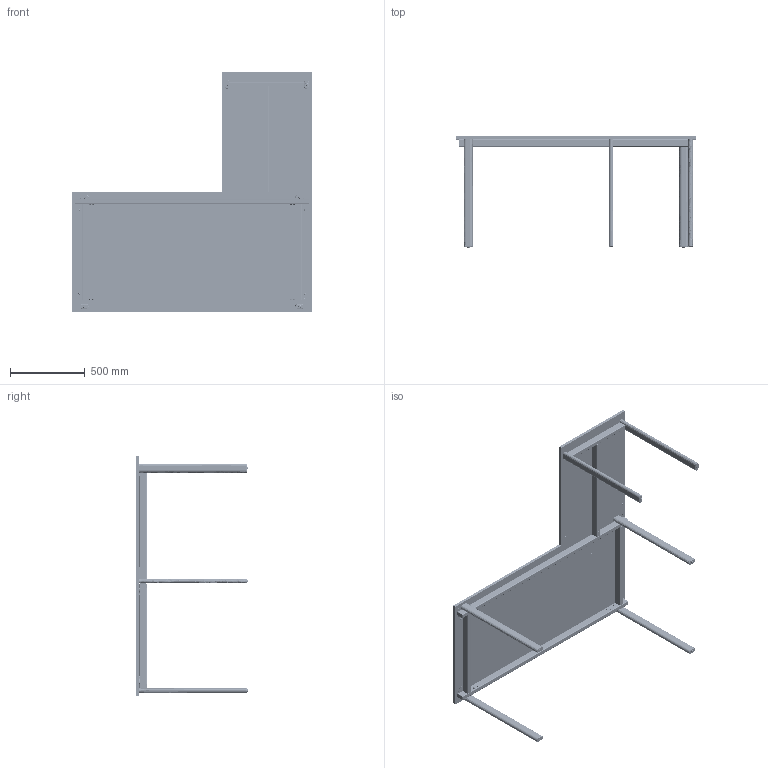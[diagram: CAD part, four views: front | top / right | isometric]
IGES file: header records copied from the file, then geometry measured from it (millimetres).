
Start section: SolidWorks IGES file using analytic representation for surfaces
Global section: file name: C:\Users\caumatel\Desktop\3D MESA TONO\MESA_INDIVIDUAL+ALA.IGS; native system: SolidWorks 2019; preprocessor: SolidWorks 2019; author: caumatel; date: 230124.081531; units: millimetre
Bounding box: 1600 x 742 x 1600 mm (x, y, z)
Surface area: 6852276.5 mm2 (no closed solid volume)
Topology: 0 solids, 0 shells, 7951 faces, 72892 edges, 72876 vertices
Faces by surface type: bspline 5757, revolution 2194
